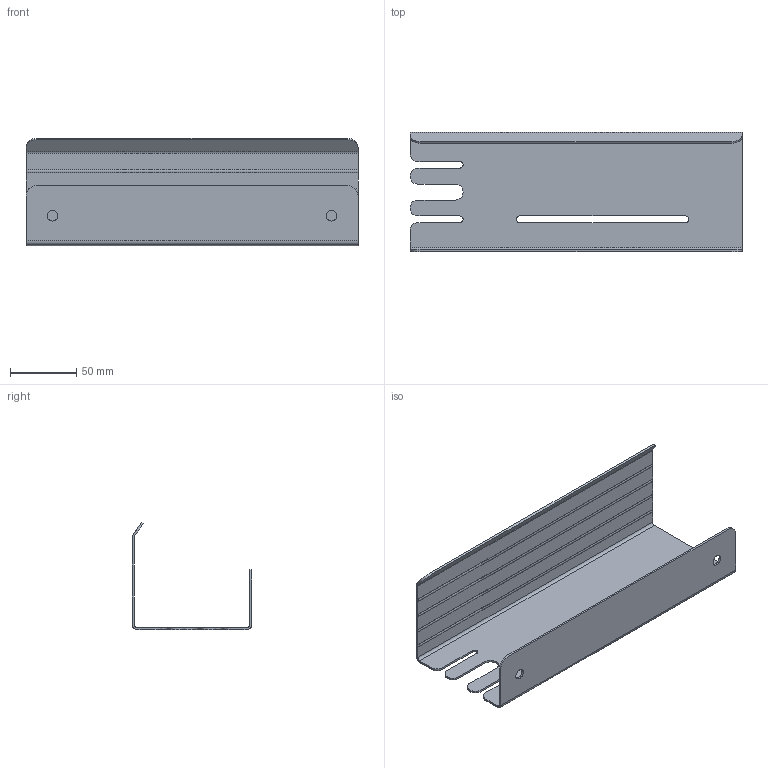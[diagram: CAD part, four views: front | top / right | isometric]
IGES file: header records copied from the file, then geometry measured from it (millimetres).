
Start section: IGES file generated by C3D Converter 1.5 translator by C3D Labs., translator version IGESOUT-5.1.
Global section: file name: D:\×åðòåæè èçäåëèé Âàííà 2023\Ïîëêè Simple Íîâûå\3D\×åðòåæè 22.07.2023\3D\SIMPLE_POLKA_250_RIGHT.igs; preprocessor: 1.0; author: a.kalenyk83@gmail.com; organization: unknown; date: -17770622:112852; units: millimetre
Bounding box: 250 x 90 x 80.68 mm (x, y, z)
Volume: 77075.4 mm3; surface area: 104930.3 mm2
Topology: 1 solids, 1 shells, 88 faces, 234 edges, 148 vertices
Faces by surface type: revolution 47, bspline 41
